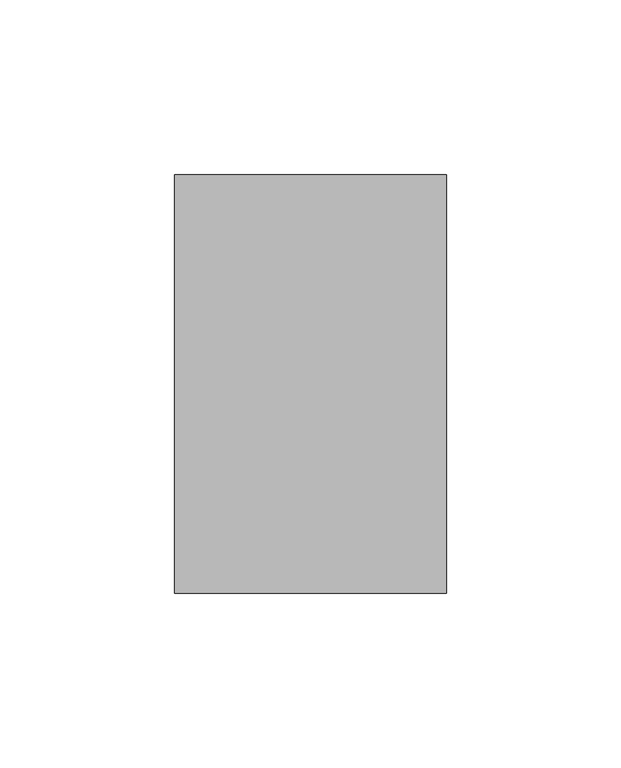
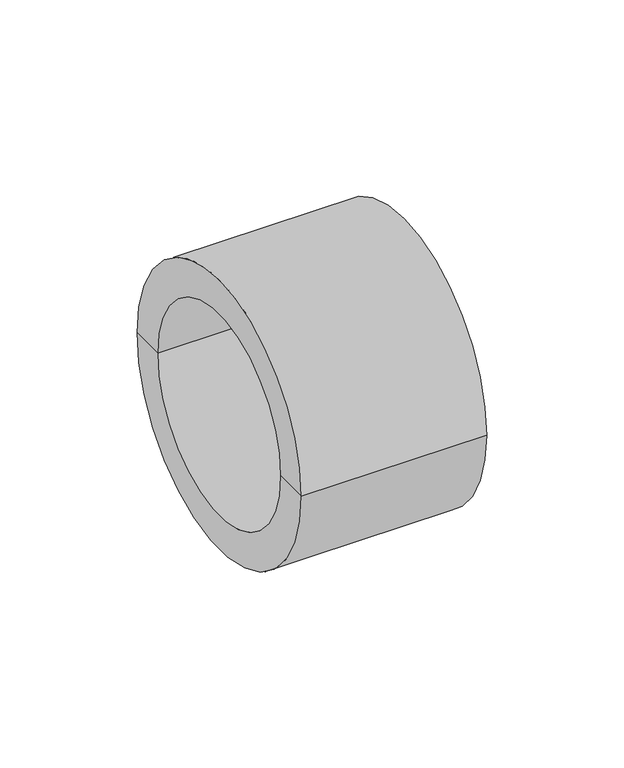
"""IFC4 building model written with IfcOpenShell, lengths in millimetres: pipe fitting geometry, EGB_VASEN_ PPR_Tapon WXR700 : Tapón WXR700."""

from ifc_helpers import new_model, si_unit, frame, origin, place, context, project, spatial, polyline, circle_curve, source, transform, mapped, element, save
from ifc_brep_helpers import plane_surface, cylinder_surface, revolved_surface, advanced_brep


def pipe_fitting_8f24f7b1(model_context):
    return source(origin(), model_context, "Body", "AdvancedBrep", [
        advanced_brep(
        [(0.0, -60.0, 0.0), (0.0, 60.0, 0.0), (78.0, 60.0, 0.0), (78.0, -60.0, 0.0), (0.0, -45.0, 0.0), (0.0, 45.0, 0.0), (63.0, -45.0, 0.0), (63.0, 45.0, 0.0), (63.0, 0.0, 0.0), (78.0, 0.0, 0.0)],
        [
            (0, 1, circle_curve(frame((0.0, 0.0, 0.0), z_axis=(1.0, 0.0, 0.0), x_axis=(0.0, 1.0, 0.0)), 60.0)),
            (1, 2),
            (2, 3, circle_curve(frame((78.0, 0.0, 0.0), z_axis=(-1.0, 0.0, 0.0), x_axis=(0.0, 1.0, 0.0)), 60.0)),
            (3, 0),
            (1, 0, circle_curve(frame((0.0, 0.0, 0.0), z_axis=(1.0, 0.0, 0.0), x_axis=(0.0, 1.0, 0.0)), 60.0)),
            (3, 2, circle_curve(frame((78.0, 0.0, 0.0), z_axis=(-1.0, 0.0, 0.0), x_axis=(0.0, 1.0, 0.0)), 60.0)),
            (4, 5, circle_curve(frame((0.0, 0.0, 0.0), z_axis=(1.0, 0.0, 0.0), x_axis=(0.0, 1.0, 0.0)), 45.0)),
            (5, 1),
            (0, 4),
            (5, 4, circle_curve(frame((0.0, 0.0, 0.0), z_axis=(1.0, 0.0, 0.0), x_axis=(0.0, 1.0, 0.0)), 45.0)),
            (6, 7, circle_curve(frame((63.0, 0.0, 0.0), z_axis=(1.0, 0.0, 0.0), x_axis=(0.0, 1.0, 0.0)), 45.0)),
            (7, 5),
            (4, 6),
            (7, 6, circle_curve(frame((63.0, 0.0, 0.0), z_axis=(1.0, 0.0, 0.0), x_axis=(0.0, 1.0, 0.0)), 45.0)),
            (8, 7),
            (6, 8),
            (2, 9),
            (9, 3),
        ],
        [
            cylinder_surface(frame((56.258615, 0.0, 0.0), z_axis=(-1.0, 0.0, 0.0), x_axis=(0.0, 1.0, 0.0)), 60.0),
            plane_surface(frame((0.0, 0.0, 0.0), z_axis=(-1.0, 0.0, 0.0), x_axis=(0.0, 1.0, 0.0))),
            revolved_surface(polyline([(0.0, 45.0, 0.0), (63.0, 45.0, 0.0)]), (56.258615, 0.0, 0.0), (-1.0, 0.0, 0.0)),
            plane_surface(frame((63.0, 0.0, 0.0), z_axis=(-1.0, 0.0, 0.0), x_axis=(0.0, 1.0, 0.0))),
            plane_surface(frame((78.0, 0.0, 0.0), z_axis=(1.0, 0.0, 0.0), x_axis=(0.0, 1.0, 0.0))),
        ],
        [
            (0, [[1, 2, 3, 4]]),
            (0, [[5, -4, 6, -2]]),
            (1, [[7, 8, -1, 9]]),
            (1, [[10, -9, -5, -8]]),
            (2, [[11, 12, -7, 13]]),
            (2, [[14, -13, -10, -12]]),
            (3, [[15, -11, 16]]),
            (3, [[-16, -14, -15]]),
            (4, [[-3, 17, 18]]),
            (4, [[-6, -18, -17]]),
        ],
    ),
    ])


if __name__ == "__main__":
    model = new_model("IFC4")
    model_context = context("Model", 3, world=origin())
    ifc_project = project(units=[si_unit("LENGTHUNIT", "METRE", prefix="MILLI")], contexts=[model_context])
    site = spatial("IfcSite", under=ifc_project)
    building = spatial("IfcBuilding", under=site)
    placement = place(None, origin())
    pipe_fitting_shape = pipe_fitting_8f24f7b1(model_context)
    element("IfcPipeFitting", 1, ObjectType="EGB_VASEN_ PPR_Tapon WXR700 : Tapón WXR700", at=placement, inside=building, context=model_context, shape_type="MappedRepresentation", body=[
        mapped(pipe_fitting_shape, transform((0.0, 0.0, 0.0), x_axis=(1.0, 0.0, 0.0), y_axis=(0.0, 1.0, 0.0), z_axis=(0.0, 0.0, 1.0))),
    ])
    save(model, "model.ifc")
